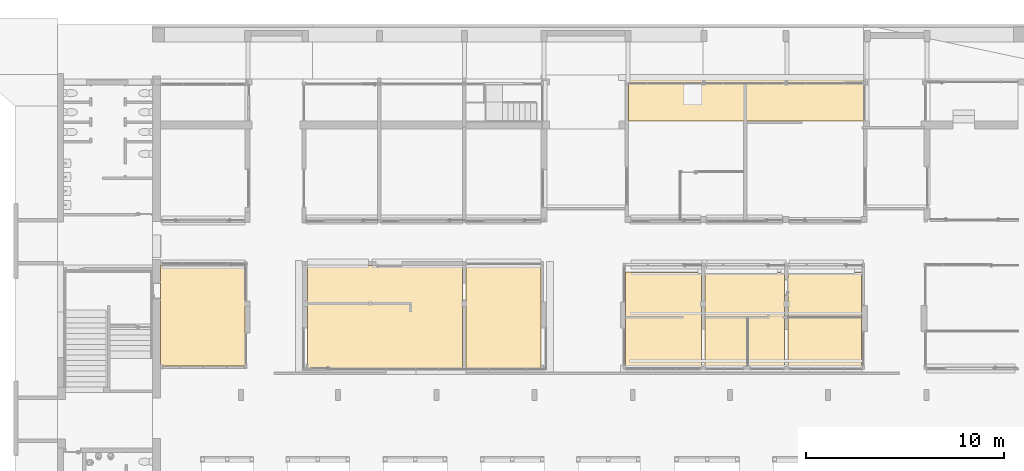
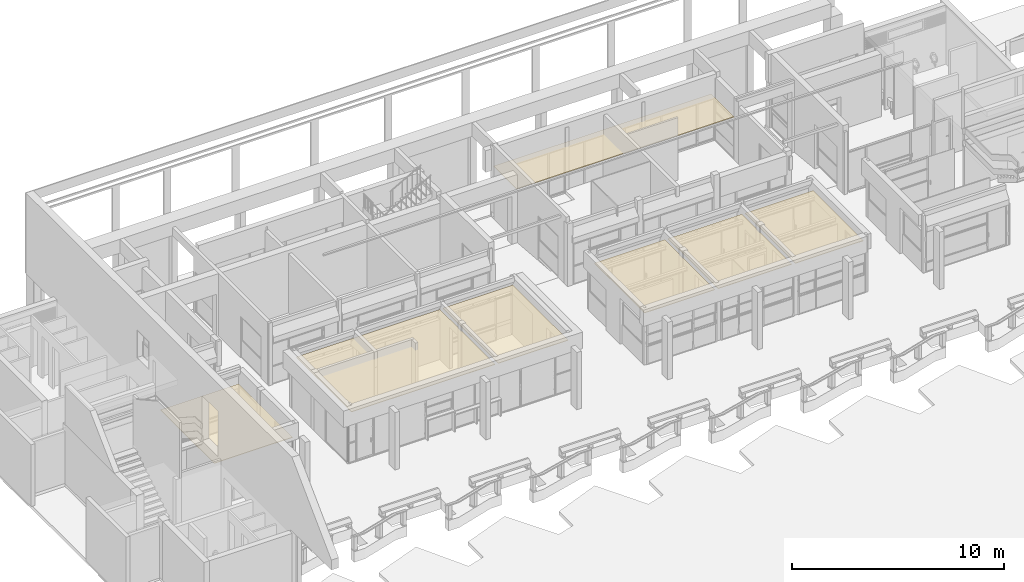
# One storey, part 111 of 117: 3 coverings.
"""IFC4 building model written with IfcOpenShell, lengths in metres."""

from ifc_helpers import new_model, entity, si_unit, converted_unit, derived_unit, direction, frame, origin, place, context, subcontext, project, spatial, indexed_curve, outline, extrude, material, type_object, element, save


model = new_model("IFC4")

# Units and contexts
model_context = context("Model", 3, precision=1e-05, world=origin(), true_north=direction((6.123031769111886e-17, 1.0)))
body_context = subcontext(model_context, "Body", "Model", "MODEL_VIEW")
ifc_project = project(units=[si_unit("LENGTHUNIT", "METRE"), si_unit("AREAUNIT", "SQUARE_METRE"), si_unit("VOLUMEUNIT", "CUBIC_METRE"), converted_unit("PLANEANGLEUNIT", "DEGREE", entity("IfcRatioMeasure", 0.017453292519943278), si_unit("PLANEANGLEUNIT", "RADIAN"), dimensions=[0, 0, 0, 0, 0, 0, 0]), si_unit("MASSUNIT", "GRAM", prefix="KILO"), derived_unit("MASSDENSITYUNIT", [(si_unit("MASSUNIT", "GRAM", prefix="KILO"), 1), (si_unit("LENGTHUNIT", "METRE"), -3)]), derived_unit("MOMENTOFINERTIAUNIT", [(si_unit("LENGTHUNIT", "METRE"), 4)]), si_unit("TIMEUNIT", "SECOND"), si_unit("FREQUENCYUNIT", "HERTZ"), si_unit("THERMODYNAMICTEMPERATUREUNIT", "DEGREE_CELSIUS"), derived_unit("THERMALTRANSMITTANCEUNIT", [(si_unit("MASSUNIT", "GRAM", prefix="KILO"), 1), (si_unit("THERMODYNAMICTEMPERATUREUNIT", "KELVIN"), -1), (si_unit("TIMEUNIT", "SECOND"), -3)]), derived_unit("VOLUMETRICFLOWRATEUNIT", [(si_unit("LENGTHUNIT", "METRE"), 3), (si_unit("TIMEUNIT", "SECOND"), -1)]), derived_unit("MASSFLOWRATEUNIT", [(si_unit("MASSUNIT", "GRAM", prefix="KILO"), 1), (si_unit("TIMEUNIT", "SECOND"), -1)]), derived_unit("ROTATIONALFREQUENCYUNIT", [(si_unit("TIMEUNIT", "SECOND"), -1)]), si_unit("ELECTRICCURRENTUNIT", "AMPERE"), si_unit("ELECTRICVOLTAGEUNIT", "VOLT"), si_unit("POWERUNIT", "WATT"), si_unit("FORCEUNIT", "NEWTON", prefix="KILO"), si_unit("ILLUMINANCEUNIT", "LUX"), si_unit("LUMINOUSFLUXUNIT", "LUMEN"), si_unit("LUMINOUSINTENSITYUNIT", "CANDELA"), derived_unit("USERDEFINED", [(si_unit("MASSUNIT", "GRAM", prefix="KILO"), -1), (si_unit("LENGTHUNIT", "METRE"), -2), (si_unit("TIMEUNIT", "SECOND"), 3), (si_unit("LUMINOUSFLUXUNIT", "LUMEN"), 1)]), derived_unit("SOUNDPOWERUNIT", [(si_unit("MASSUNIT", "GRAM", prefix="KILO"), 1), (si_unit("LENGTHUNIT", "METRE"), 2), (si_unit("TIMEUNIT", "SECOND"), -3)]), derived_unit("SOUNDPRESSUREUNIT", [(si_unit("MASSUNIT", "GRAM", prefix="KILO"), 1), (si_unit("LENGTHUNIT", "METRE"), -1), (si_unit("TIMEUNIT", "SECOND"), -2)]), derived_unit("LINEARVELOCITYUNIT", [(si_unit("LENGTHUNIT", "METRE"), 1), (si_unit("TIMEUNIT", "SECOND"), -1)]), si_unit("PRESSUREUNIT", "PASCAL"), derived_unit("USERDEFINED", [(si_unit("LENGTHUNIT", "METRE"), -2), (si_unit("MASSUNIT", "GRAM", prefix="KILO"), 1), (si_unit("TIMEUNIT", "SECOND"), -2)]), derived_unit("LINEARFORCEUNIT", [(si_unit("MASSUNIT", "GRAM", prefix="KILO"), 1), (si_unit("LENGTHUNIT", "METRE"), 1), (si_unit("TIMEUNIT", "SECOND"), -2), (si_unit("LENGTHUNIT", "METRE"), -1)]), derived_unit("PLANARFORCEUNIT", [(si_unit("MASSUNIT", "GRAM", prefix="KILO"), 1), (si_unit("LENGTHUNIT", "METRE"), 1), (si_unit("TIMEUNIT", "SECOND"), -2), (si_unit("LENGTHUNIT", "METRE"), -2)])], contexts=[model_context])

# Site, building, storey
site_placement = place(None, origin())
site = spatial("IfcSite", under=ifc_project, at=site_placement, Name="Superficie", CompositionType="ELEMENT")
building_placement = place(site_placement, origin())
building = spatial("IfcBuilding", under=site, at=building_placement, CompositionType="ELEMENT")
storey_placement = place(building_placement, origin())
storey = spatial("IfcBuildingStorey", under=building, at=storey_placement, Name="Nivel 0", CompositionType="ELEMENT", Elevation=0.0)

# Coverings
ifc_material = material(Name="Lámina de enlucido perforada", Category="Placa de yeso laminado")
covering_type_1 = type_object("IfcCoveringType", Name="Techo compuesto:Falso techo 2 de placa de yeso laminado", PredefinedType="CEILING")
covering_1_placement = place(storey_placement, origin())
element("IfcCovering", 1, at=covering_1_placement, inside=storey, type_object=covering_type_1, material=ifc_material, Name="Techo compuesto:Falso techo 2 de placa de yeso laminado", ObjectType="Techo compuesto:Falso techo 2 de placa de yeso laminado", PredefinedType="CEILING", context=body_context, shape_type="SweptSolid", body=[
    extrude(outline(indexed_curve([(-1.852500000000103, -2.36994999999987), (1.8525000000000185, -2.36994999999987), (1.852500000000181, 2.36994999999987), (-1.852500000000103, 2.36994999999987), (-1.852500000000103, -2.36994999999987)], self_intersect=False)), frame((10.84429901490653, 0.7757792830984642, 2.8499999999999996), z_axis=(0.0, 0.0, 1.0), x_axis=(-1.0, 0.0, 0.0)), (0.0, 0.0, 1.0), 0.030000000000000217),
    extrude(outline(indexed_curve([(-2.6000000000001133, -3.90749999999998), (2.6000000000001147, -3.90749999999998), (2.600000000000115, 3.907499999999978), (-2.600000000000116, 3.907499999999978), (-2.6000000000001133, -3.90749999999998)], self_intersect=False)), frame((-11.340700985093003, 0.8858292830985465, 2.8499999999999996), z_axis=(0.0, 0.0, 1.0), x_axis=(0.0, -1.0, 0.0)), (0.0, 0.0, 1.0), 0.030000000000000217),
    extrude(outline(indexed_curve([(-1.9150000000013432, -2.362449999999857), (1.9150000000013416, -2.362449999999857), (1.9150000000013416, 2.362449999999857), (-1.91500000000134, 2.362449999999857), (-1.9150000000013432, -2.362449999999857)], self_intersect=False)), frame((2.7017990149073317, 0.7832792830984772, 2.8499999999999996), z_axis=(0.0, 0.0, 1.0), x_axis=(-1.0, 0.0, 0.0)), (0.0, 0.0, 1.0), 0.030000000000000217),
    extrude(outline(indexed_curve([(-2.007499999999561, -2.3624499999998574), (2.0074999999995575, -2.3624499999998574), (2.007499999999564, 2.3624499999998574), (-2.007499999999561, 2.3624499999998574), (-2.007499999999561, -2.3624499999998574)], self_intersect=False)), frame((6.804299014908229, 0.7832792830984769, 2.8499999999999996), z_axis=(0.0, 0.0, 1.0), x_axis=(-1.0, 0.0, 0.0)), (0.0, 0.0, 1.0), 0.030000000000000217),
    extrude(outline(indexed_curve([(-2.6100000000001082, -1.9000000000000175), (2.6100000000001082, -1.9000000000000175), (2.6100000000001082, 1.9000000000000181), (-2.6100000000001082, 1.9000000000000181), (-2.6100000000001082, -1.9000000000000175)], self_intersect=False)), frame((-5.3532009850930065, 0.8958292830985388, 2.8499999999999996), z_axis=(0.0, 0.0, 1.0), x_axis=(0.0, -1.0, 0.0)), (0.0, 0.0, 1.0), 0.030000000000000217),
])
covering_type_2 = type_object("IfcCoveringType", Name="Techo compuesto:Falso techo 2 de placa de yeso laminado", PredefinedType="CEILING")
covering_2_placement = place(storey_placement, origin())
element("IfcCovering", 2, at=covering_2_placement, inside=storey, type_object=covering_type_2, material=ifc_material, Name="Techo compuesto:Falso techo 2 de placa de yeso laminado", ObjectType="Techo compuesto:Falso techo 2 de placa de yeso laminado", PredefinedType="CEILING", context=body_context, shape_type="SweptSolid", body=[
    extrude(outline(indexed_curve([(-2.129999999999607, -2.530000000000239), (2.129999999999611, -2.5300000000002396), (2.1299999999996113, 2.5300000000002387), (-2.1299999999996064, 2.530000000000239), (-2.129999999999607, -2.530000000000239)], self_intersect=False)), frame((-20.513200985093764, 0.9508292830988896, 2.3999999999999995), z_axis=(0.0, 0.0, 1.0), x_axis=(-1.0, 0.0, 0.0)), (0.0, 0.0, 1.0), 0.029999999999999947),
])
covering_type_3 = type_object("IfcCoveringType", Name="Techo compuesto:Falso techo 2 de placa de yeso laminado", PredefinedType="CEILING")
covering_3_placement = place(storey_placement, origin())
element("IfcCovering", 3, at=covering_3_placement, inside=storey, type_object=covering_type_3, material=ifc_material, Name="Techo compuesto:Falso techo 2 de placa de yeso laminado", ObjectType="Techo compuesto:Falso techo 2 de placa de yeso laminado", PredefinedType="CEILING", context=body_context, shape_type="SweptSolid", body=[
    extrude(outline(indexed_curve([(-1.0773148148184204, -5.924508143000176), (1.0773148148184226, -5.924508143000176), (1.0773148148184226, 5.924508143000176), (-1.0773148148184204, 5.924508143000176), (-1.0773148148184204, -5.924508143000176)], self_intersect=False)), frame((6.8660601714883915, 11.848144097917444, 2.45), z_axis=(0.0, 0.0, 1.0), x_axis=(0.0, 1.0, 0.0)), (0.0, 0.0, 1.0), 0.030000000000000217),
])

save(model, "model.ifc")
